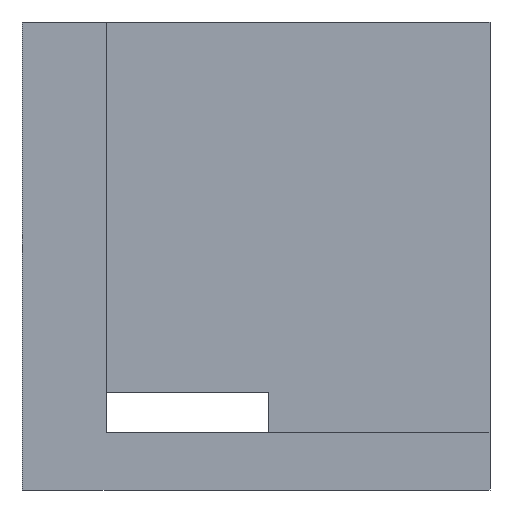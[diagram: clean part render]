
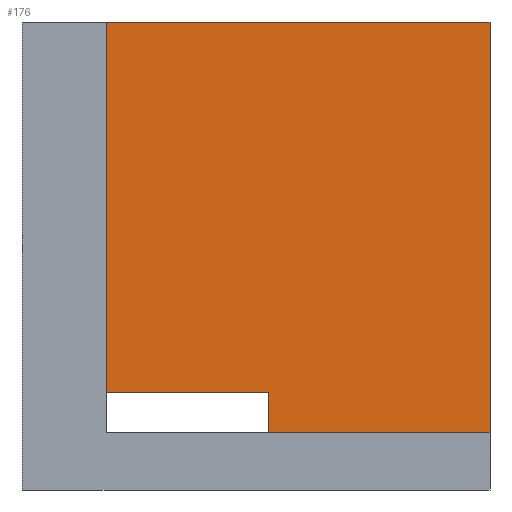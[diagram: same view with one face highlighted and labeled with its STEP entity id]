
A CAD part, left-side view. The second image highlights one B-rep face of the part: STEP entity #176.
In plain terms, the highlighted planar face has unit normal (-1, 0, 0).
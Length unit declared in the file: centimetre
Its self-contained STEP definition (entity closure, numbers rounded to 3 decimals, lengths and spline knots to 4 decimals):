
#15 = VECTOR ( 'NONE', #119, 100. ) ;
#22 = VERTEX_POINT ( 'NONE', #421 ) ;
#23 = AXIS2_PLACEMENT_3D ( 'NONE', #178, #281, #137 ) ;
#28 = DIRECTION ( 'NONE',  ( 0., -1., 0. ) ) ;
#31 = LINE ( 'NONE', #96, #139 ) ;
#36 = EDGE_CURVE ( 'NONE', #22, #145, #31, .T. ) ;
#39 = VECTOR ( 'NONE', #174, 100. ) ;
#44 = CARTESIAN_POINT ( 'NONE',  ( 802.4416, 819.7865, 121.944 ) ) ;
#50 = EDGE_CURVE ( 'NONE', #437, #145, #388, .T. ) ;
#54 = VERTEX_POINT ( 'NONE', #71 ) ;
#55 = CARTESIAN_POINT ( 'NONE',  ( 802.4416, 819.7865, 121.944 ) ) ;
#63 = CARTESIAN_POINT ( 'NONE',  ( 802.4416, 473.1722, 208.6195 ) ) ;
#71 = CARTESIAN_POINT ( 'NONE',  ( 802.4416, 819.7865, 208.6195 ) ) ;
#72 = DIRECTION ( 'NONE',  ( 0., 0., 1. ) ) ;
#76 = CARTESIAN_POINT ( 'NONE',  ( 802.4416, 473.1722, 208.6195 ) ) ;
#79 = CARTESIAN_POINT ( 'NONE',  ( 802.4416, 1000., 208.6195 ) ) ;
#95 = VECTOR ( 'NONE', #72, 100. ) ;
#96 = CARTESIAN_POINT ( 'NONE',  ( 802.4416, 0., 121.944 ) ) ;
#100 = VERTEX_POINT ( 'NONE', #314 ) ;
#111 = VERTEX_POINT ( 'NONE', #63 ) ;
#119 = DIRECTION ( 'NONE',  ( 0., -1., 0. ) ) ;
#120 = ORIENTED_EDGE ( 'NONE', *, *, #225, .F. ) ;
#137 = DIRECTION ( 'NONE',  ( 0., 0., -1. ) ) ;
#139 = VECTOR ( 'NONE', #424, 100. ) ;
#145 = VERTEX_POINT ( 'NONE', #358 ) ;
#146 = LINE ( 'NONE', #55, #15 ) ;
#150 = ORIENTED_EDGE ( 'NONE', *, *, #232, .F. ) ;
#152 = ORIENTED_EDGE ( 'NONE', *, *, #50, .F. ) ;
#172 = ORIENTED_EDGE ( 'NONE', *, *, #36, .T. ) ;
#174 = DIRECTION ( 'NONE',  ( 0., 0., 1. ) ) ;
#176 = ADVANCED_FACE ( 'NONE', ( #390 ), #209, .F. ) ;
#178 = CARTESIAN_POINT ( 'NONE',  ( 802.4416, 819.7865, 121.944 ) ) ;
#179 = LINE ( 'NONE', #44, #95 ) ;
#206 = EDGE_CURVE ( 'NONE', #54, #111, #251, .T. ) ;
#209 = PLANE ( 'NONE',  #23 ) ;
#225 = EDGE_CURVE ( 'NONE', #54, #437, #179, .T. ) ;
#232 = EDGE_CURVE ( 'NONE', #100, #111, #324, .T. ) ;
#251 = LINE ( 'NONE', #79, #285 ) ;
#270 = ORIENTED_EDGE ( 'NONE', *, *, #206, .T. ) ;
#274 = CARTESIAN_POINT ( 'NONE',  ( 802.4416, 819.7865, 1000. ) ) ;
#281 = DIRECTION ( 'NONE',  ( 1., 0., 0. ) ) ;
#285 = VECTOR ( 'NONE', #322, 100. ) ;
#307 = VECTOR ( 'NONE', #28, 100. ) ;
#314 = CARTESIAN_POINT ( 'NONE',  ( 802.4416, 473.1722, 121.944 ) ) ;
#322 = DIRECTION ( 'NONE',  ( 0., -1., 0. ) ) ;
#324 = LINE ( 'NONE', #76, #39 ) ;
#325 = ORIENTED_EDGE ( 'NONE', *, *, #418, .T. ) ;
#358 = CARTESIAN_POINT ( 'NONE',  ( 802.4416, 0., 1000. ) ) ;
#388 = LINE ( 'NONE', #274, #307 ) ;
#390 = FACE_OUTER_BOUND ( 'NONE', #396, .T. ) ;
#396 = EDGE_LOOP ( 'NONE', ( #270, #150, #325, #172, #152, #120 ) ) ;
#408 = CARTESIAN_POINT ( 'NONE',  ( 802.4416, 819.7865, 1000. ) ) ;
#418 = EDGE_CURVE ( 'NONE', #100, #22, #146, .T. ) ;
#421 = CARTESIAN_POINT ( 'NONE',  ( 802.4416, 0., 121.944 ) ) ;
#424 = DIRECTION ( 'NONE',  ( 0., 0., 1. ) ) ;
#437 = VERTEX_POINT ( 'NONE', #408 ) ;
